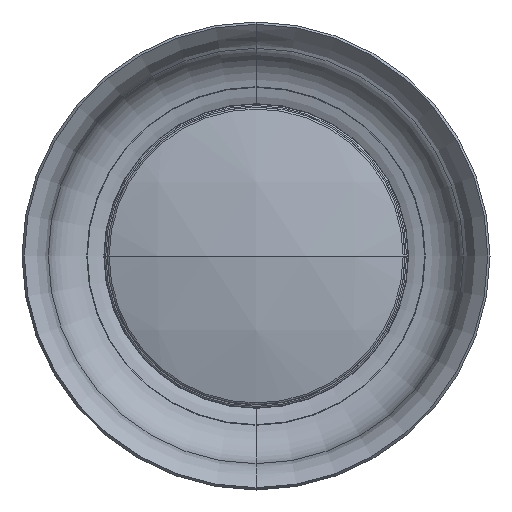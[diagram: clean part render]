
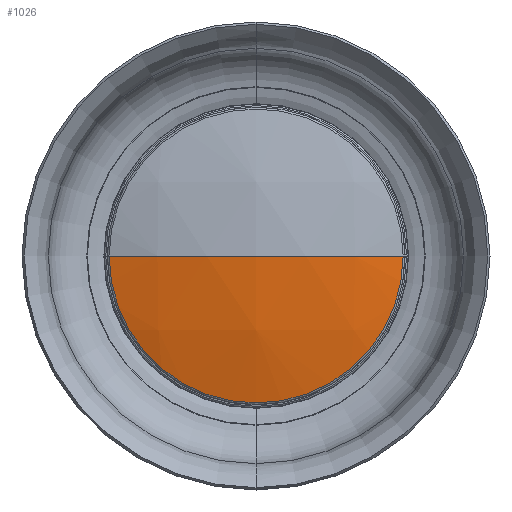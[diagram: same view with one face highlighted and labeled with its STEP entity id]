
A CAD part, front view. The second image highlights one B-rep face of the part: STEP entity #1026.
In plain terms, the highlighted spherical face has radius 186.223 mm.
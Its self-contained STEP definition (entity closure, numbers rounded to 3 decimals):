
#61 = AXIS2_PLACEMENT_3D ( 'NONE', #1022, #117, #341 ) ;
#117 = DIRECTION ( 'NONE',  ( 0., 0., 1. ) ) ;
#133 = CARTESIAN_POINT ( 'NONE',  ( 53.067, -87.917, 0. ) ) ;
#180 = DIRECTION ( 'NONE',  ( -1., 0., 0. ) ) ;
#272 = CARTESIAN_POINT ( 'NONE',  ( 0., -87.917, 0. ) ) ;
#295 = CIRCLE ( 'NONE', #585, 53.067 ) ;
#301 = ORIENTED_EDGE ( 'NONE', *, *, #1087, .F. ) ;
#327 = EDGE_LOOP ( 'NONE', ( #491, #820, #301 ) ) ;
#341 = DIRECTION ( 'NONE',  ( 1., 0., 0. ) ) ;
#380 = CIRCLE ( 'NONE', #597, 186.223 ) ;
#491 = ORIENTED_EDGE ( 'NONE', *, *, #824, .T. ) ;
#503 = CARTESIAN_POINT ( 'NONE',  ( 0., 90.585, 0. ) ) ;
#510 = AXIS2_PLACEMENT_3D ( 'NONE', #503, #967, #180 ) ;
#568 = DIRECTION ( 'NONE',  ( -1., 0., 0. ) ) ;
#585 = AXIS2_PLACEMENT_3D ( 'NONE', #272, #724, #568 ) ;
#597 = AXIS2_PLACEMENT_3D ( 'NONE', #1288, #1224, #1324 ) ;
#660 = CARTESIAN_POINT ( 'NONE',  ( 0., -95.638, 0. ) ) ;
#724 = DIRECTION ( 'NONE',  ( 0., -1., 0. ) ) ;
#746 = CARTESIAN_POINT ( 'NONE',  ( -53.067, -87.917, 0. ) ) ;
#820 = ORIENTED_EDGE ( 'NONE', *, *, #1348, .T. ) ;
#824 = EDGE_CURVE ( 'NONE', #1430, #1255, #295, .T. ) ;
#967 = DIRECTION ( 'NONE',  ( 0., 0., -1. ) ) ;
#1022 = CARTESIAN_POINT ( 'NONE',  ( 0., 90.585, 0. ) ) ;
#1026 = ADVANCED_FACE ( 'NONE', ( #1346 ), #1226, .T. ) ;
#1087 = EDGE_CURVE ( 'NONE', #1430, #1091, #1438, .T. ) ;
#1091 = VERTEX_POINT ( 'NONE', #660 ) ;
#1224 = DIRECTION ( 'NONE',  ( 0., 0., -1. ) ) ;
#1226 = SPHERICAL_SURFACE ( 'NONE', #510, 186.223 ) ;
#1255 = VERTEX_POINT ( 'NONE', #133 ) ;
#1288 = CARTESIAN_POINT ( 'NONE',  ( 0., 90.585, 0. ) ) ;
#1324 = DIRECTION ( 'NONE',  ( -1., 0., 0. ) ) ;
#1346 = FACE_OUTER_BOUND ( 'NONE', #327, .T. ) ;
#1348 = EDGE_CURVE ( 'NONE', #1255, #1091, #380, .T. ) ;
#1430 = VERTEX_POINT ( 'NONE', #746 ) ;
#1438 = CIRCLE ( 'NONE', #61, 186.223 ) ;
